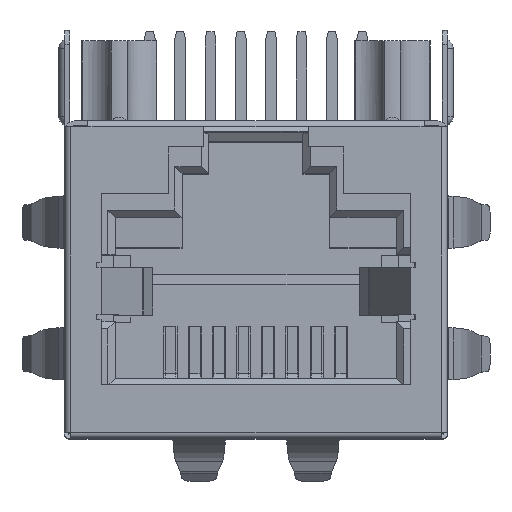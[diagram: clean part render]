
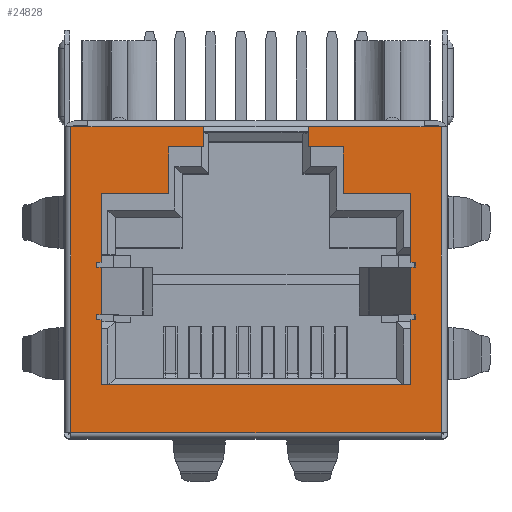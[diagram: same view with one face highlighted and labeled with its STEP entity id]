
A CAD part, top view. The second image highlights one B-rep face of the part: STEP entity #24828.
In plain terms, the highlighted planar face has unit normal (0, 0, 1).
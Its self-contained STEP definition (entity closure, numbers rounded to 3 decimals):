
#1165=DIRECTION('',(1.,0.,0.));
#1166=VECTOR('',#1165,1.465);
#1167=CARTESIAN_POINT('',(2.185,-0.7,0.3));
#1168=LINE('',#1167,#1166);
#1169=DIRECTION('',(1.,0.,0.));
#1170=VECTOR('',#1169,2.835);
#1171=CARTESIAN_POINT('',(3.65,-2.65,0.3));
#1172=LINE('',#1171,#1170);
#1173=DIRECTION('',(0.,-1.,0.));
#1174=VECTOR('',#1173,1.95);
#1175=CARTESIAN_POINT('',(3.65,-0.7,0.3));
#1176=LINE('',#1175,#1174);
#1177=DIRECTION('',(1.,0.,0.));
#1178=VECTOR('',#1177,0.72);
#1179=CARTESIAN_POINT('',(7.035,0.15,0.3));
#1180=LINE('',#1179,#1178);
#1181=DIRECTION('',(1.,0.,0.));
#1182=VECTOR('',#1181,0.72);
#1183=CARTESIAN_POINT('',(-7.745,0.15,0.3));
#1184=LINE('',#1183,#1182);
#1185=DIRECTION('',(0.,-1.,0.));
#1186=VECTOR('',#1185,0.85);
#1187=CARTESIAN_POINT('',(-2.175,0.15,0.3));
#1188=LINE('',#1187,#1186);
#1189=DIRECTION('',(0.,1.,0.));
#1190=VECTOR('',#1189,1.95);
#1191=CARTESIAN_POINT('',(-3.65,-2.65,0.3));
#1192=LINE('',#1191,#1190);
#1193=DIRECTION('',(1.,0.,0.));
#1194=VECTOR('',#1193,2.825);
#1195=CARTESIAN_POINT('',(-6.475,-2.65,0.3));
#1196=LINE('',#1195,#1194);
#1197=DIRECTION('',(0.,-1.,0.));
#1198=VECTOR('',#1197,2.88);
#1199=CARTESIAN_POINT('',(-6.475,-2.65,0.3));
#1200=LINE('',#1199,#1198);
#1201=DIRECTION('',(0.,-1.,0.));
#1202=VECTOR('',#1201,0.2);
#1203=CARTESIAN_POINT('',(-6.67,-5.53,0.3));
#1204=LINE('',#1203,#1202);
#1205=DIRECTION('',(0.,-1.,0.));
#1206=VECTOR('',#1205,2.);
#1207=CARTESIAN_POINT('',(-6.47,-5.73,0.3));
#1208=LINE('',#1207,#1206);
#1209=DIRECTION('',(0.,-1.,0.));
#1210=VECTOR('',#1209,0.2);
#1211=CARTESIAN_POINT('',(-6.67,-7.73,0.3));
#1212=LINE('',#1211,#1210);
#1213=DIRECTION('',(1.,0.,0.));
#1214=VECTOR('',#1213,0.195);
#1215=CARTESIAN_POINT('',(-6.67,-7.93,0.3));
#1216=LINE('',#1215,#1214);
#1217=DIRECTION('',(0.,-1.,0.));
#1218=VECTOR('',#1217,2.72);
#1219=CARTESIAN_POINT('',(-6.475,-7.93,0.3));
#1220=LINE('',#1219,#1218);
#1221=DIRECTION('',(1.,0.,0.));
#1222=VECTOR('',#1221,12.96);
#1223=CARTESIAN_POINT('',(-6.475,-10.65,0.3));
#1224=LINE('',#1223,#1222);
#1225=DIRECTION('',(1.,0.,0.));
#1226=VECTOR('',#1225,0.195);
#1227=CARTESIAN_POINT('',(6.485,-7.93,0.3));
#1228=LINE('',#1227,#1226);
#1229=DIRECTION('',(1.,0.,0.));
#1230=VECTOR('',#1229,0.2);
#1231=CARTESIAN_POINT('',(6.48,-5.73,0.3));
#1232=LINE('',#1231,#1230);
#1237=DIRECTION('',(0.,-1.,0.));
#1238=VECTOR('',#1237,2.88);
#1239=CARTESIAN_POINT('',(6.485,-2.65,0.3));
#1240=LINE('',#1239,#1238);
#1257=DIRECTION('',(1.,0.,0.));
#1258=VECTOR('',#1257,0.195);
#1259=CARTESIAN_POINT('',(6.485,-5.53,0.3));
#1260=LINE('',#1259,#1258);
#1261=DIRECTION('',(0.,-1.,0.));
#1262=VECTOR('',#1261,0.2);
#1263=CARTESIAN_POINT('',(6.68,-5.53,0.3));
#1264=LINE('',#1263,#1262);
#1341=DIRECTION('',(1.,0.,0.));
#1342=VECTOR('',#1341,0.2);
#1343=CARTESIAN_POINT('',(6.48,-7.73,0.3));
#1344=LINE('',#1343,#1342);
#1369=DIRECTION('',(0.,-1.,0.));
#1370=VECTOR('',#1369,2.);
#1371=CARTESIAN_POINT('',(6.48,-5.73,0.3));
#1372=LINE('',#1371,#1370);
#1377=DIRECTION('',(0.,-1.,0.));
#1378=VECTOR('',#1377,0.2);
#1379=CARTESIAN_POINT('',(6.68,-7.73,0.3));
#1380=LINE('',#1379,#1378);
#1393=DIRECTION('',(0.,-1.,0.));
#1394=VECTOR('',#1393,2.72);
#1395=CARTESIAN_POINT('',(6.485,-7.93,0.3));
#1396=LINE('',#1395,#1394);
#1442=DIRECTION('',(1.,0.,0.));
#1443=VECTOR('',#1442,0.2);
#1444=CARTESIAN_POINT('',(-6.67,-7.73,0.3));
#1445=LINE('',#1444,#1443);
#1501=DIRECTION('',(-1.,0.,0.));
#1502=VECTOR('',#1501,0.2);
#1503=CARTESIAN_POINT('',(-6.47,-5.73,0.3));
#1504=LINE('',#1503,#1502);
#1545=DIRECTION('',(1.,0.,0.));
#1546=VECTOR('',#1545,0.195);
#1547=CARTESIAN_POINT('',(-6.67,-5.53,0.3));
#1548=LINE('',#1547,#1546);
#1561=DIRECTION('',(1.,0.,0.));
#1562=VECTOR('',#1561,1.475);
#1563=CARTESIAN_POINT('',(-3.65,-0.7,0.3));
#1564=LINE('',#1563,#1562);
#1621=DIRECTION('',(-1.,0.,0.));
#1622=VECTOR('',#1621,4.85);
#1623=CARTESIAN_POINT('',(-2.175,0.15,0.3));
#1624=LINE('',#1623,#1622);
#1629=DIRECTION('',(-1.,0.,0.));
#1630=VECTOR('',#1629,4.85);
#1631=CARTESIAN_POINT('',(7.035,0.15,0.3));
#1632=LINE('',#1631,#1630);
#1660=DIRECTION('',(0.,-1.,0.));
#1661=VECTOR('',#1660,12.8);
#1662=CARTESIAN_POINT('',(-7.745,0.15,0.3));
#1663=LINE('',#1662,#1661);
#1710=DIRECTION('',(1.,0.,0.));
#1711=VECTOR('',#1710,15.5);
#1712=CARTESIAN_POINT('',(-7.745,-12.65,0.3));
#1713=LINE('',#1712,#1711);
#2378=DIRECTION('',(0.,1.,0.));
#2379=VECTOR('',#2378,12.8);
#2380=CARTESIAN_POINT('',(7.755,-12.65,0.3));
#2381=LINE('',#2380,#2379);
#5601=DIRECTION('',(0.,-1.,0.));
#5602=VECTOR('',#5601,0.85);
#5603=CARTESIAN_POINT('',(2.185,0.15,0.3));
#5604=LINE('',#5603,#5602);
#18586=CARTESIAN_POINT('',(-6.475,-10.65,0.3));
#18587=CARTESIAN_POINT('',(6.485,-10.65,0.3));
#18588=VERTEX_POINT('',#18586);
#18589=VERTEX_POINT('',#18587);
#18590=CARTESIAN_POINT('',(-7.745,-12.65,0.3));
#18591=CARTESIAN_POINT('',(7.755,-12.65,0.3));
#18592=VERTEX_POINT('',#18590);
#18593=VERTEX_POINT('',#18591);
#18594=CARTESIAN_POINT('',(-7.745,0.15,0.3));
#18595=VERTEX_POINT('',#18594);
#18596=CARTESIAN_POINT('',(-7.025,0.15,0.3));
#18597=VERTEX_POINT('',#18596);
#18598=CARTESIAN_POINT('',(-2.175,0.15,0.3));
#18599=VERTEX_POINT('',#18598);
#18600=CARTESIAN_POINT('',(-2.175,-0.7,0.3));
#18601=VERTEX_POINT('',#18600);
#18602=CARTESIAN_POINT('',(-6.67,-5.53,0.3));
#18603=CARTESIAN_POINT('',(-6.475,-5.53,0.3));
#18604=VERTEX_POINT('',#18602);
#18605=VERTEX_POINT('',#18603);
#18606=CARTESIAN_POINT('',(-6.67,-5.73,0.3));
#18607=VERTEX_POINT('',#18606);
#18608=CARTESIAN_POINT('',(-6.47,-5.73,0.3));
#18609=VERTEX_POINT('',#18608);
#18610=CARTESIAN_POINT('',(-6.47,-7.73,0.3));
#18611=VERTEX_POINT('',#18610);
#18612=CARTESIAN_POINT('',(-6.67,-7.73,0.3));
#18613=VERTEX_POINT('',#18612);
#18614=CARTESIAN_POINT('',(-6.67,-7.93,0.3));
#18615=VERTEX_POINT('',#18614);
#18616=CARTESIAN_POINT('',(-6.475,-7.93,0.3));
#18617=VERTEX_POINT('',#18616);
#18618=CARTESIAN_POINT('',(6.485,-7.93,0.3));
#18619=VERTEX_POINT('',#18618);
#18620=CARTESIAN_POINT('',(6.68,-7.93,0.3));
#18621=VERTEX_POINT('',#18620);
#18622=CARTESIAN_POINT('',(6.68,-7.73,0.3));
#18623=VERTEX_POINT('',#18622);
#18624=CARTESIAN_POINT('',(6.48,-7.73,0.3));
#18625=VERTEX_POINT('',#18624);
#18626=CARTESIAN_POINT('',(6.48,-5.73,0.3));
#18627=VERTEX_POINT('',#18626);
#18628=CARTESIAN_POINT('',(6.68,-5.73,0.3));
#18629=VERTEX_POINT('',#18628);
#18630=CARTESIAN_POINT('',(6.68,-5.53,0.3));
#18631=VERTEX_POINT('',#18630);
#18632=CARTESIAN_POINT('',(6.485,-5.53,0.3));
#18633=VERTEX_POINT('',#18632);
#18634=CARTESIAN_POINT('',(2.185,0.15,0.3));
#18635=CARTESIAN_POINT('',(2.185,-0.7,0.3));
#18636=VERTEX_POINT('',#18634);
#18637=VERTEX_POINT('',#18635);
#18638=CARTESIAN_POINT('',(7.035,0.15,0.3));
#18639=VERTEX_POINT('',#18638);
#18640=CARTESIAN_POINT('',(7.755,0.15,0.3));
#18641=VERTEX_POINT('',#18640);
#23116=CARTESIAN_POINT('',(-3.65,-2.65,0.3));
#23118=VERTEX_POINT('',#23116);
#23120=CARTESIAN_POINT('',(3.65,-2.65,0.3));
#23122=VERTEX_POINT('',#23120);
#23124=CARTESIAN_POINT('',(-3.65,-0.7,0.3));
#23126=VERTEX_POINT('',#23124);
#23128=CARTESIAN_POINT('',(-6.475,-2.65,0.3));
#23130=VERTEX_POINT('',#23128);
#23132=CARTESIAN_POINT('',(3.65,-0.7,0.3));
#23134=VERTEX_POINT('',#23132);
#23137=CARTESIAN_POINT('',(6.485,-2.65,0.3));
#23139=VERTEX_POINT('',#23137);
#24755=CARTESIAN_POINT('',(3.88,-6.25,0.3));
#24756=DIRECTION('',(0.,0.,1.));
#24757=DIRECTION('',(-1.,0.,0.));
#24758=AXIS2_PLACEMENT_3D('',#24755,#24756,#24757);
#24759=PLANE('',#24758);
#24761=ORIENTED_EDGE('',*,*,#24760,.F.);
#24763=ORIENTED_EDGE('',*,*,#24762,.F.);
#24764=ORIENTED_EDGE('',*,*,#24747,.F.);
#24765=ORIENTED_EDGE('',*,*,#24736,.F.);
#24767=ORIENTED_EDGE('',*,*,#24766,.F.);
#24769=ORIENTED_EDGE('',*,*,#24768,.F.);
#24771=ORIENTED_EDGE('',*,*,#24770,.T.);
#24773=ORIENTED_EDGE('',*,*,#24772,.F.);
#24775=ORIENTED_EDGE('',*,*,#24774,.F.);
#24777=ORIENTED_EDGE('',*,*,#24776,.F.);
#24779=ORIENTED_EDGE('',*,*,#24778,.T.);
#24781=ORIENTED_EDGE('',*,*,#24780,.F.);
#24783=ORIENTED_EDGE('',*,*,#24782,.T.);
#24785=ORIENTED_EDGE('',*,*,#24784,.F.);
#24787=ORIENTED_EDGE('',*,*,#24786,.F.);
#24789=ORIENTED_EDGE('',*,*,#24788,.F.);
#24791=ORIENTED_EDGE('',*,*,#24790,.T.);
#24793=ORIENTED_EDGE('',*,*,#24792,.F.);
#24795=ORIENTED_EDGE('',*,*,#24794,.T.);
#24797=ORIENTED_EDGE('',*,*,#24796,.F.);
#24799=ORIENTED_EDGE('',*,*,#24798,.T.);
#24801=ORIENTED_EDGE('',*,*,#24800,.F.);
#24803=ORIENTED_EDGE('',*,*,#24802,.T.);
#24805=ORIENTED_EDGE('',*,*,#24804,.T.);
#24807=ORIENTED_EDGE('',*,*,#24806,.T.);
#24809=ORIENTED_EDGE('',*,*,#24808,.T.);
#24811=ORIENTED_EDGE('',*,*,#24810,.F.);
#24813=ORIENTED_EDGE('',*,*,#24812,.T.);
#24815=ORIENTED_EDGE('',*,*,#24814,.F.);
#24817=ORIENTED_EDGE('',*,*,#24816,.F.);
#24819=ORIENTED_EDGE('',*,*,#24818,.F.);
#24821=ORIENTED_EDGE('',*,*,#24820,.T.);
#24823=ORIENTED_EDGE('',*,*,#24822,.F.);
#24825=ORIENTED_EDGE('',*,*,#24824,.F.);
#24826=EDGE_LOOP('',(#24761,#24763,#24764,#24765,#24767,#24769,#24771,#24773,
#24775,#24777,#24779,#24781,#24783,#24785,#24787,#24789,#24791,#24793,#24795,
#24797,#24799,#24801,#24803,#24805,#24807,#24809,#24811,#24813,#24815,#24817,
#24819,#24821,#24823,#24825));
#24827=FACE_OUTER_BOUND('',#24826,.F.);
#24828=ADVANCED_FACE('',(#24827),#24759,.T.);
#24736=EDGE_CURVE('',#18637,#23134,#1168,.T.);
#24747=EDGE_CURVE('',#23134,#23122,#1176,.T.);
#24760=EDGE_CURVE('',#23139,#18633,#1240,.T.);
#24762=EDGE_CURVE('',#23122,#23139,#1172,.T.);
#24766=EDGE_CURVE('',#18636,#18637,#5604,.T.);
#24768=EDGE_CURVE('',#18639,#18636,#1632,.T.);
#24770=EDGE_CURVE('',#18639,#18641,#1180,.T.);
#24772=EDGE_CURVE('',#18593,#18641,#2381,.T.);
#24774=EDGE_CURVE('',#18592,#18593,#1713,.T.);
#24776=EDGE_CURVE('',#18595,#18592,#1663,.T.);
#24778=EDGE_CURVE('',#18595,#18597,#1184,.T.);
#24780=EDGE_CURVE('',#18599,#18597,#1624,.T.);
#24782=EDGE_CURVE('',#18599,#18601,#1188,.T.);
#24784=EDGE_CURVE('',#23126,#18601,#1564,.T.);
#24786=EDGE_CURVE('',#23118,#23126,#1192,.T.);
#24788=EDGE_CURVE('',#23130,#23118,#1196,.T.);
#24790=EDGE_CURVE('',#23130,#18605,#1200,.T.);
#24792=EDGE_CURVE('',#18604,#18605,#1548,.T.);
#24794=EDGE_CURVE('',#18604,#18607,#1204,.T.);
#24796=EDGE_CURVE('',#18609,#18607,#1504,.T.);
#24798=EDGE_CURVE('',#18609,#18611,#1208,.T.);
#24800=EDGE_CURVE('',#18613,#18611,#1445,.T.);
#24802=EDGE_CURVE('',#18613,#18615,#1212,.T.);
#24804=EDGE_CURVE('',#18615,#18617,#1216,.T.);
#24806=EDGE_CURVE('',#18617,#18588,#1220,.T.);
#24808=EDGE_CURVE('',#18588,#18589,#1224,.T.);
#24810=EDGE_CURVE('',#18619,#18589,#1396,.T.);
#24812=EDGE_CURVE('',#18619,#18621,#1228,.T.);
#24814=EDGE_CURVE('',#18623,#18621,#1380,.T.);
#24816=EDGE_CURVE('',#18625,#18623,#1344,.T.);
#24818=EDGE_CURVE('',#18627,#18625,#1372,.T.);
#24820=EDGE_CURVE('',#18627,#18629,#1232,.T.);
#24822=EDGE_CURVE('',#18631,#18629,#1264,.T.);
#24824=EDGE_CURVE('',#18633,#18631,#1260,.T.);
